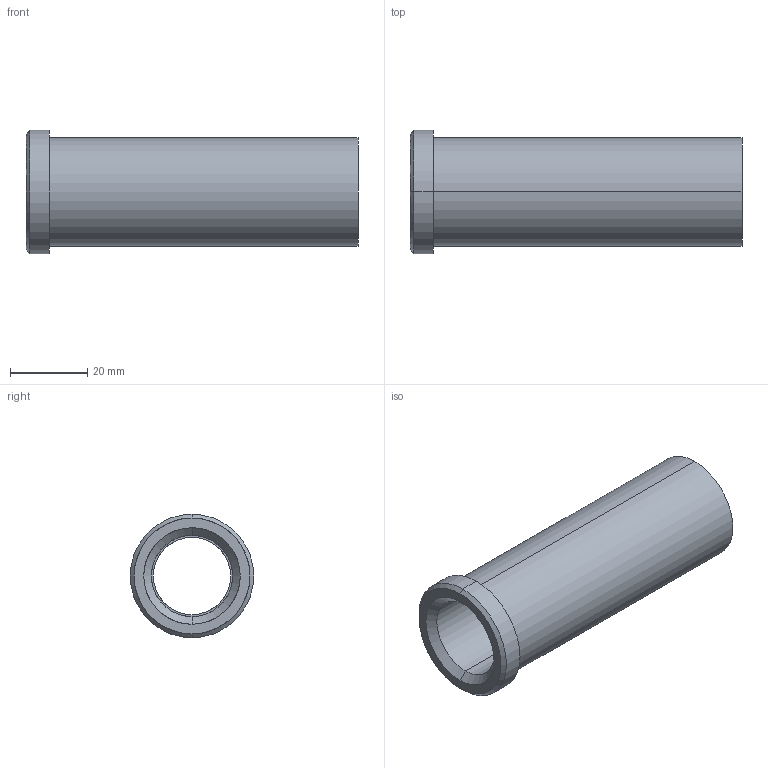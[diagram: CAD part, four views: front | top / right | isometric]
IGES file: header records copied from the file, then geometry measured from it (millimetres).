
Start section: START RECORD GO HERE.
Global section: file name: 353-20X86.igs; native system: DASSAULT SYSTEMES CATIA V5 R20 - www.3ds.com; preprocessor: CATIA Version 5 Release 20 ; author: Utente; organization: NB04-ASUS; date: 20210508.105413; units: millimetre
Bounding box: 86 x 32 x 32 mm (x, y, z)
Surface area: 13996.9 mm2 (no closed solid volume)
Topology: 0 solids, 0 shells, 18 faces, 116 edges, 116 vertices
Faces by surface type: revolution 14, plane 4
